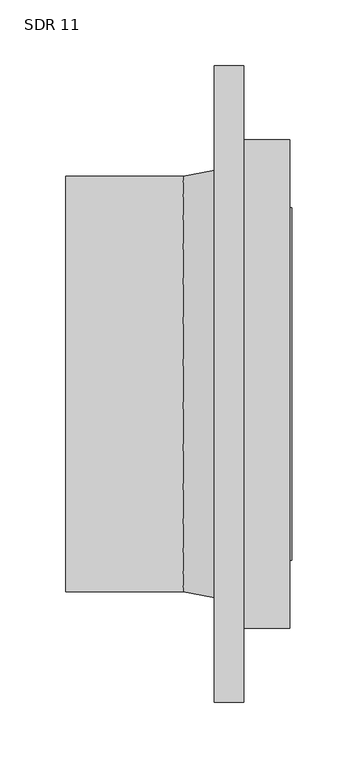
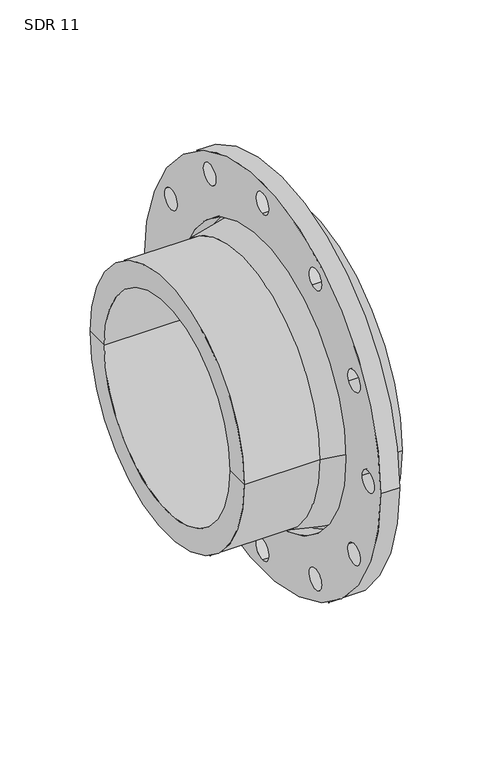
"""IFC4 building model written with IfcOpenShell, lengths in millimetres: valve geometry, Aquatherm - Flange Adapter Butt-Weld : SDR 11."""

from ifc_helpers import new_model, si_unit, point, frame, frame_2d, origin, origin_2d, place, context, project, spatial, polyline, circle_curve, trimmed, segment, composite_curve, outline, extrude, source, transform, mapped, element, save
from ifc_brep_helpers import plane_surface, cylinder_surface, revolved_surface, advanced_brep


def sdr_11_03218ad8(model_context):
    return source(origin(), model_context, "Body", "SolidModel", [
        extrude(outline(composite_curve([segment(trimmed(circle_curve(origin_2d(), 241.3), [point((-241.3, 0.0))], [point((241.3, 0.0))], False, "CARTESIAN"), True, "CONTINUOUS"), segment(trimmed(circle_curve(origin_2d(), 241.3), [point((241.3, 0.0))], [point((-241.3, 0.0))], False, "CARTESIAN"), True, "CONTINUOUS")], self_intersect=False), holes=[composite_curve([segment(trimmed(circle_curve(origin_2d(), 170.18), [point((-170.18, 0.0))], [point((170.18, 0.0))], True, "CARTESIAN"), True, "CONTINUOUS"), segment(trimmed(circle_curve(origin_2d(), 170.18), [point((170.18, 0.0))], [point((-170.18, 0.0))], True, "CARTESIAN"), True, "CONTINUOUS")], self_intersect=False), composite_curve([segment(trimmed(circle_curve(frame_2d((215.9, 0.0)), 12.7), [point((203.2, 0.0))], [point((228.6, 0.0))], True, "CARTESIAN"), True, "CONTINUOUS"), segment(trimmed(circle_curve(frame_2d((215.9, 0.0)), 12.7), [point((228.6, 0.0))], [point((203.2, 0.0))], True, "CARTESIAN"), True, "CONTINUOUS")], self_intersect=False), composite_curve([segment(trimmed(circle_curve(frame_2d((186.9748847, -107.95)), 12.7), [point((175.976362, -101.6))], [point((197.9734073, -114.3))], True, "CARTESIAN"), True, "CONTINUOUS"), segment(trimmed(circle_curve(frame_2d((186.9748847, -107.95)), 12.7), [point((197.9734073, -114.3))], [point((175.976362, -101.6))], True, "CARTESIAN"), True, "CONTINUOUS")], self_intersect=False), composite_curve([segment(trimmed(circle_curve(frame_2d((186.9748847, 107.95)), 12.7), [point((175.976362, 101.6))], [point((197.9734073, 114.3))], True, "CARTESIAN"), True, "CONTINUOUS"), segment(trimmed(circle_curve(frame_2d((186.9748847, 107.95)), 12.7), [point((197.9734073, 114.3))], [point((175.976362, 101.6))], True, "CARTESIAN"), True, "CONTINUOUS")], self_intersect=False), composite_curve([segment(trimmed(circle_curve(frame_2d((107.95, 186.9748847)), 12.7), [point((101.6, 175.976362))], [point((114.3, 197.9734073))], True, "CARTESIAN"), True, "CONTINUOUS"), segment(trimmed(circle_curve(frame_2d((107.95, 186.9748847)), 12.7), [point((114.3, 197.9734073))], [point((101.6, 175.976362))], True, "CARTESIAN"), True, "CONTINUOUS")], self_intersect=False), composite_curve([segment(trimmed(circle_curve(frame_2d((0.0, 215.9)), 12.7), [point((0.0, 203.2))], [point((0.0, 228.6))], True, "CARTESIAN"), True, "CONTINUOUS"), segment(trimmed(circle_curve(frame_2d((0.0, 215.9)), 12.7), [point((0.0, 228.6))], [point((0.0, 203.2))], True, "CARTESIAN"), True, "CONTINUOUS")], self_intersect=False), composite_curve([segment(trimmed(circle_curve(frame_2d((-107.95, 186.9748847)), 12.7), [point((-101.6, 175.976362))], [point((-114.3, 197.9734073))], True, "CARTESIAN"), True, "CONTINUOUS"), segment(trimmed(circle_curve(frame_2d((-107.95, 186.9748847)), 12.7), [point((-114.3, 197.9734073))], [point((-101.6, 175.976362))], True, "CARTESIAN"), True, "CONTINUOUS")], self_intersect=False), composite_curve([segment(trimmed(circle_curve(frame_2d((-186.9748847, 107.95)), 12.7), [point((-175.976362, 101.6))], [point((-197.9734073, 114.3))], True, "CARTESIAN"), True, "CONTINUOUS"), segment(trimmed(circle_curve(frame_2d((-186.9748847, 107.95)), 12.7), [point((-197.9734073, 114.3))], [point((-175.976362, 101.6))], True, "CARTESIAN"), True, "CONTINUOUS")], self_intersect=False), composite_curve([segment(trimmed(circle_curve(frame_2d((-215.9, 0.0)), 12.7), [point((-203.2, 0.0))], [point((-228.6, 0.0))], True, "CARTESIAN"), True, "CONTINUOUS"), segment(trimmed(circle_curve(frame_2d((-215.9, 0.0)), 12.7), [point((-228.6, 0.0))], [point((-203.2, 0.0))], True, "CARTESIAN"), True, "CONTINUOUS")], self_intersect=False), composite_curve([segment(trimmed(circle_curve(frame_2d((-186.9748847, -107.95)), 12.7), [point((-175.976362, -101.6))], [point((-197.9734073, -114.3))], True, "CARTESIAN"), True, "CONTINUOUS"), segment(trimmed(circle_curve(frame_2d((-186.9748847, -107.95)), 12.7), [point((-197.9734073, -114.3))], [point((-175.976362, -101.6))], True, "CARTESIAN"), True, "CONTINUOUS")], self_intersect=False), composite_curve([segment(trimmed(circle_curve(frame_2d((-107.95, -186.9748847)), 12.7), [point((-101.6, -175.976362))], [point((-114.3, -197.9734073))], True, "CARTESIAN"), True, "CONTINUOUS"), segment(trimmed(circle_curve(frame_2d((-107.95, -186.9748847)), 12.7), [point((-114.3, -197.9734073))], [point((-101.6, -175.976362))], True, "CARTESIAN"), True, "CONTINUOUS")], self_intersect=False), composite_curve([segment(trimmed(circle_curve(frame_2d((0.0, -215.9)), 12.7), [point((0.0, -203.2))], [point((0.0, -228.6))], True, "CARTESIAN"), True, "CONTINUOUS"), segment(trimmed(circle_curve(frame_2d((0.0, -215.9)), 12.7), [point((0.0, -228.6))], [point((0.0, -203.2))], True, "CARTESIAN"), True, "CONTINUOUS")], self_intersect=False), composite_curve([segment(trimmed(circle_curve(frame_2d((107.95, -186.9748847)), 12.7), [point((101.6, -175.976362))], [point((114.3, -197.9734073))], True, "CARTESIAN"), True, "CONTINUOUS"), segment(trimmed(circle_curve(frame_2d((107.95, -186.9748847)), 12.7), [point((114.3, -197.9734073))], [point((101.6, -175.976362))], True, "CARTESIAN"), True, "CONTINUOUS")], self_intersect=False)]), frame((-22.352, 0.0, 0.0), z_axis=(1.0, 0.0, 0.0), x_axis=(0.0, 1.0, 0.0)), (0.0, 0.0, 1.0), 22.352),
        advanced_brep(
        [(35.052, 185.42, 0.0), (35.052, -185.42, 0.0), (0.0, -185.42, 0.0), (0.0, 185.42, 0.0), (36.6395, 128.778, 0.0), (36.6395, -128.778, 0.0), (36.6395, -133.858, 0.0), (36.6395, 133.858, 0.0), (-134.874, 128.778, 0.0), (-134.874, -128.778, 0.0), (-134.874, 157.48, 0.0), (-134.874, -157.48, 0.0), (-45.974, 157.48, 0.0), (-45.974, -157.48, 0.0), (0.0, -166.37, 0.0), (0.0, 166.37, 0.0), (35.052, 133.858, 0.0), (35.052, -133.858, 0.0)],
        [
            (0, 1, circle_curve(frame((35.052, 0.0, 0.0), z_axis=(-1.0, 0.0, 0.0), x_axis=(0.0, -1.0, 0.0)), 185.42)),
            (1, 2),
            (2, 3, circle_curve(frame((0.0, 0.0, 0.0), z_axis=(1.0, 0.0, 0.0), x_axis=(0.0, -1.0, 0.0)), 185.42)),
            (3, 0),
            (1, 0, circle_curve(frame((35.052, 0.0, 0.0), z_axis=(-1.0, 0.0, 0.0), x_axis=(0.0, -1.0, 0.0)), 185.42)),
            (3, 2, circle_curve(frame((0.0, 0.0, 0.0), z_axis=(1.0, 0.0, 0.0), x_axis=(0.0, -1.0, 0.0)), 185.42)),
            (4, 5, circle_curve(frame((36.6395, 0.0, 0.0), z_axis=(-1.0, 0.0, 0.0), x_axis=(0.0, -1.0, 0.0)), 128.778)),
            (5, 6),
            (6, 7, circle_curve(frame((36.6395, 0.0, 0.0), z_axis=(1.0, 0.0, 0.0), x_axis=(0.0, -1.0, 0.0)), 133.858)),
            (7, 4),
            (5, 4, circle_curve(frame((36.6395, 0.0, 0.0), z_axis=(-1.0, 0.0, 0.0), x_axis=(0.0, -1.0, 0.0)), 128.778)),
            (7, 6, circle_curve(frame((36.6395, 0.0, 0.0), z_axis=(1.0, 0.0, 0.0), x_axis=(0.0, -1.0, 0.0)), 133.858)),
            (8, 9, circle_curve(frame((-134.874, 0.0, 0.0), z_axis=(-1.0, 0.0, 0.0), x_axis=(0.0, -1.0, 0.0)), 128.778)),
            (9, 5),
            (4, 8),
            (9, 8, circle_curve(frame((-134.874, 0.0, 0.0), z_axis=(-1.0, 0.0, 0.0), x_axis=(0.0, -1.0, 0.0)), 128.778)),
            (10, 11, circle_curve(frame((-134.874, 0.0, 0.0), z_axis=(-1.0, 0.0, 0.0), x_axis=(0.0, -1.0, 0.0)), 157.48)),
            (11, 9),
            (8, 10),
            (11, 10, circle_curve(frame((-134.874, 0.0, 0.0), z_axis=(-1.0, 0.0, 0.0), x_axis=(0.0, -1.0, 0.0)), 157.48)),
            (12, 13, circle_curve(frame((-45.974, 0.0, 0.0), z_axis=(-1.0, 0.0, 0.0), x_axis=(0.0, -1.0, 0.0)), 157.48)),
            (13, 11),
            (10, 12),
            (13, 12, circle_curve(frame((-45.974, 0.0, 0.0), z_axis=(-1.0, 0.0, 0.0), x_axis=(0.0, -1.0, 0.0)), 157.48)),
            (2, 14),
            (14, 15, circle_curve(frame((0.0, 0.0, 0.0), z_axis=(1.0, 0.0, 0.0), x_axis=(0.0, -1.0, 0.0)), 166.37)),
            (15, 3),
            (15, 14, circle_curve(frame((0.0, 0.0, 0.0), z_axis=(1.0, 0.0, 0.0), x_axis=(0.0, -1.0, 0.0)), 166.37)),
            (16, 17, circle_curve(frame((35.052, 0.0, 0.0), z_axis=(-1.0, 0.0, 0.0), x_axis=(0.0, -1.0, 0.0)), 133.858)),
            (17, 1),
            (0, 16),
            (17, 16, circle_curve(frame((35.052, 0.0, 0.0), z_axis=(-1.0, 0.0, 0.0), x_axis=(0.0, -1.0, 0.0)), 133.858)),
            (6, 17),
            (16, 7),
            (14, 13),
            (12, 15),
        ],
        [
            cylinder_surface(frame((1475.6909321, 0.0, 0.0), z_axis=(1.0, 0.0, 0.0), x_axis=(0.0, -1.0, 0.0)), 185.42),
            plane_surface(frame((36.6395, 0.0, 0.0), z_axis=(1.0, 0.0, 0.0), x_axis=(0.0, -1.0, 0.0))),
            revolved_surface(polyline([(36.6395, -128.778, 0.0), (-134.87400000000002, -128.778, 0.0)]), (1475.6909321, 0.0, 0.0), (1.0, 0.0, 0.0)),
            plane_surface(frame((-134.874, 0.0, 0.0), z_axis=(-1.0, 0.0, 0.0), x_axis=(0.0, -1.0, 0.0))),
            cylinder_surface(frame((1475.6909321, 0.0, 0.0), z_axis=(1.0, 0.0, 0.0), x_axis=(0.0, -1.0, 0.0)), 157.48),
            plane_surface(frame((0.0, 0.0, 0.0), z_axis=(-1.0, 0.0, 0.0), x_axis=(0.0, -1.0, 0.0))),
            plane_surface(frame((35.052, 0.0, 0.0), z_axis=(1.0, 0.0, 0.0), x_axis=(0.0, -1.0, 0.0))),
            cylinder_surface(frame((1475.6909321, 0.0, 0.0), z_axis=(1.0, 0.0, 0.0), x_axis=(0.0, -1.0, 0.0)), 133.858),
            revolved_surface(polyline([(-45.974, -157.48, 0.0), (0.0, -166.37, 0.0)]), (1475.6909321, 0.0, 0.0), (1.0, 0.0, 0.0)),
        ],
        [
            (0, [[1, 2, 3, 4]]),
            (0, [[5, -4, 6, -2]]),
            (1, [[7, 8, 9, 10]]),
            (1, [[11, -10, 12, -8]]),
            (2, [[13, 14, -7, 15]]),
            (2, [[16, -15, -11, -14]]),
            (3, [[17, 18, -13, 19]]),
            (3, [[20, -19, -16, -18]]),
            (4, [[21, 22, -17, 23]]),
            (4, [[24, -23, -20, -22]]),
            (5, [[-3, 25, 26, 27]]),
            (5, [[-6, -27, 28, -25]]),
            (6, [[29, 30, -1, 31]]),
            (6, [[32, -31, -5, -30]]),
            (7, [[-9, 33, -29, 34]]),
            (7, [[-12, -34, -32, -33]]),
            (8, [[-26, 35, -21, 36]]),
            (8, [[-28, -36, -24, -35]]),
        ],
    ),
    ])


if __name__ == "__main__":
    model = new_model("IFC4")
    model_context = context("Model", 3, world=origin())
    ifc_project = project(units=[si_unit("LENGTHUNIT", "METRE", prefix="MILLI")], contexts=[model_context])
    site = spatial("IfcSite", under=ifc_project)
    building = spatial("IfcBuilding", under=site)
    placement = place(None, origin())
    sdr_11_shape = sdr_11_03218ad8(model_context)
    element("IfcValve", 1, ObjectType="Aquatherm - Flange Adapter Butt-Weld : SDR 11", at=placement, inside=building, context=model_context, shape_type="MappedRepresentation", body=[
        mapped(sdr_11_shape, transform((0.0, 0.0, 0.0), x_axis=(1.0, 0.0, 0.0), y_axis=(0.0, 1.0, 0.0), z_axis=(0.0, 0.0, 1.0))),
    ])
    save(model, "model.ifc")
